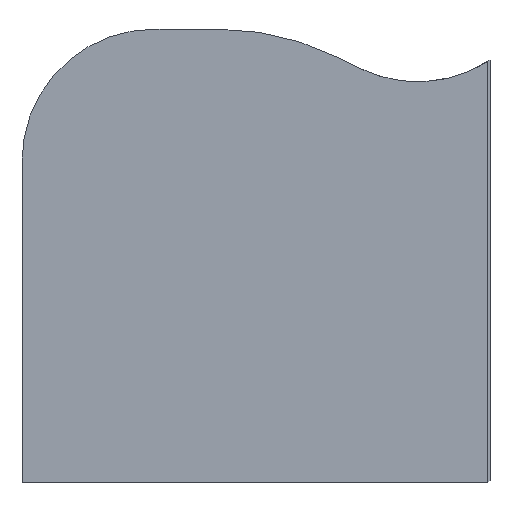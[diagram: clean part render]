
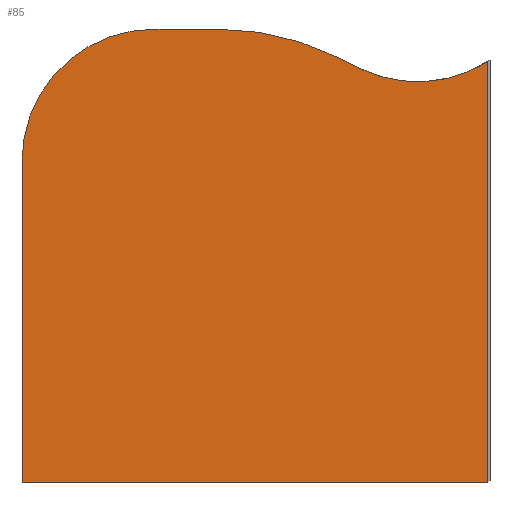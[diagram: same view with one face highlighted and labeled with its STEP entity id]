
A CAD part, top view. The second image highlights one B-rep face of the part: STEP entity #85.
In plain terms, the highlighted planar face has unit normal (0, 0, 1).
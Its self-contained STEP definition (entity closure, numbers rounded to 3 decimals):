
#85=ADVANCED_FACE('',(#169),#171,.T.);
#169=FACE_BOUND('',#170,.T.);
#170=EDGE_LOOP('',(#234,#235,#236,#237,#238,#239,#240,#241));
#171=PLANE('',#172);
#172=AXIS2_PLACEMENT_3D('',#173,#174,#175);
#173=CARTESIAN_POINT('',(0.,0.,0.8));
#174=DIRECTION('',(0.,0.,1.));
#175=DIRECTION('',(1.,0.,0.));
#234=ORIENTED_EDGE('',*,*,#280,.T.);
#235=ORIENTED_EDGE('',*,*,#269,.T.);
#236=ORIENTED_EDGE('',*,*,#281,.T.);
#237=ORIENTED_EDGE('',*,*,#282,.T.);
#238=ORIENTED_EDGE('',*,*,#283,.T.);
#239=ORIENTED_EDGE('',*,*,#284,.T.);
#240=ORIENTED_EDGE('',*,*,#285,.T.);
#241=ORIENTED_EDGE('',*,*,#271,.T.);
#269=EDGE_CURVE('',#290,#295,#297,.T.);
#271=EDGE_CURVE('',#301,#299,#302,.F.);
#280=EDGE_CURVE('',#299,#290,#316,.F.);
#281=EDGE_CURVE('',#295,#317,#318,.T.);
#282=EDGE_CURVE('',#317,#319,#320,.T.);
#283=EDGE_CURVE('',#319,#321,#322,.T.);
#284=EDGE_CURVE('',#321,#323,#324,.T.);
#285=EDGE_CURVE('',#323,#301,#325,.T.);
#290=VERTEX_POINT('',#330);
#295=VERTEX_POINT('',#341);
#297=CIRCLE('',#345,40.);
#299=VERTEX_POINT('',#350);
#301=VERTEX_POINT('',#354);
#302=LINE('',#355,#356);
#316=LINE('',#389,#390);
#317=VERTEX_POINT('',#392);
#318=LINE('',#393,#394);
#319=VERTEX_POINT('',#396);
#320=CIRCLE('',#397,80.);
#321=VERTEX_POINT('',#401);
#322=LINE('',#402,#403);
#323=VERTEX_POINT('',#405);
#324=CIRCLE('',#406,40.);
#325=LINE('',#410,#411);
#330=CARTESIAN_POINT('',(-158.837,127.226,0.8));
#341=CARTESIAN_POINT('',(-197.894,125.325,0.8));
#345=AXIS2_PLACEMENT_3D('',#346,#347,#348);
#346=CARTESIAN_POINT('',(-180.062,161.13,0.8));
#347=DIRECTION('',(0.,0.,-1.));
#348=DIRECTION('',(0.531,-0.848,0.));
#350=CARTESIAN_POINT('',(-158.837,-0.442,0.8));
#354=CARTESIAN_POINT('',(-300.,-0.442,0.8));
#355=CARTESIAN_POINT('',(-158.837,-0.442,0.8));
#356=VECTOR('',#357,1.);
#357=DIRECTION('',(-1.,0.,0.));
#389=CARTESIAN_POINT('',(-158.837,127.226,0.8));
#390=VECTOR('',#391,1.);
#391=DIRECTION('',(0.,-1.,0.));
#392=CARTESIAN_POINT('',(-204.638,128.684,0.8));
#393=CARTESIAN_POINT('',(-197.894,125.325,0.8));
#394=VECTOR('',#395,1.);
#395=DIRECTION('',(-0.895,0.446,0.));
#396=CARTESIAN_POINT('',(-240.302,137.073,0.8));
#397=AXIS2_PLACEMENT_3D('',#398,#399,#400);
#398=CARTESIAN_POINT('',(-240.302,57.073,0.8));
#399=DIRECTION('',(0.,0.,1.));
#400=DIRECTION('',(0.446,0.895,0.));
#401=CARTESIAN_POINT('',(-260.,137.073,0.8));
#402=CARTESIAN_POINT('',(-240.302,137.073,0.8));
#403=VECTOR('',#404,1.);
#404=DIRECTION('',(-1.,0.,0.));
#405=CARTESIAN_POINT('',(-300.,97.073,0.8));
#406=AXIS2_PLACEMENT_3D('',#407,#408,#409);
#407=CARTESIAN_POINT('',(-260.,97.073,0.8));
#408=DIRECTION('',(0.,0.,1.));
#409=DIRECTION('',(0.,1.,0.));
#410=CARTESIAN_POINT('',(-300.,97.073,0.8));
#411=VECTOR('',#412,1.);
#412=DIRECTION('',(0.,-1.,0.));
